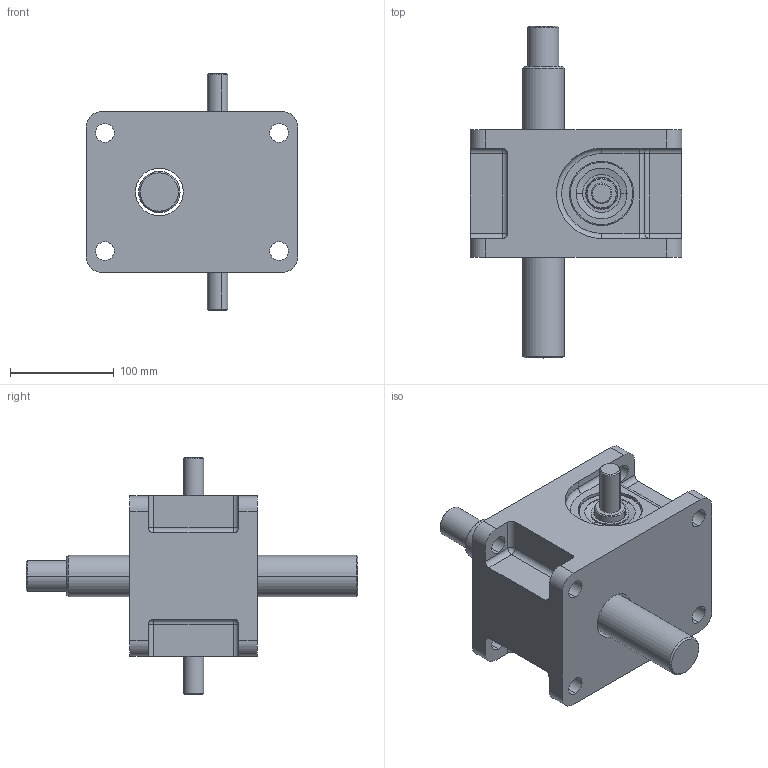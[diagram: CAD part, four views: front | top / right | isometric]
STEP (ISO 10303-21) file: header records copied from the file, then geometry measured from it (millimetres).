
FILE_DESCRIPTION (( 'STEP AP203' ), '1' );
FILE_NAME ('LMA5.0.STEP', '2008-07-31T00:26:25', ( 'Cliente' ), ( 'Home' ), 'SwSTEP 2.0', 'SolidWorks 2008', '' );
FILE_SCHEMA (( 'CONFIG_CONTROL_DESIGN' ));
Length unit declared in the file: millimetre
Products named in the file (6): Taper Roller Bearing_DIN_DIN 720 - 30206 - 16,SI,NC,16; EspelharTaper Roller Bearing_DIN_DIN 720 - 30206 - 16,SI,NC,16; LMA5.0; carcaça_Valor predeterminado; fuso_Valor predeterminado; sem_fim_Valor predeterminado
Assembly tree (5 placements, depth 2):
  LMA5.0
    sem_fim_Valor predeterminado
    carcaça_Valor predeterminado
    EspelharTaper Roller Bearing_DIN_DIN 720 - 30206 - 16,SI,NC,16
    fuso_Valor predeterminado
    Taper Roller Bearing_DIN_DIN 720 - 30206 - 16,SI,NC,16
Bounding box: 204 x 320 x 228 mm (x, y, z)
Volume: 3282941.6 mm3; surface area: 290345.2 mm2
Topology: 5 solids, 5 shells, 207 faces, 471 edges, 277 vertices
Faces by surface type: cylinder 87, cone 54, plane 43, torus 15, sphere 8
Entity records: 6433 total; most frequent: DIRECTION 1149, CARTESIAN_POINT 955, ORIENTED_EDGE 926, AXIS2_PLACEMENT_3D 471, EDGE_CURVE 463, VERTEX_POINT 277, CIRCLE 256, EDGE_LOOP 242
